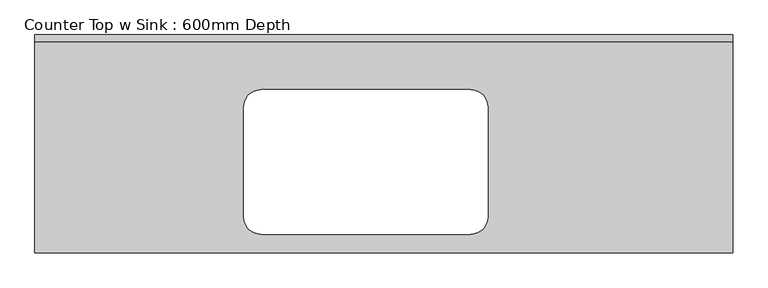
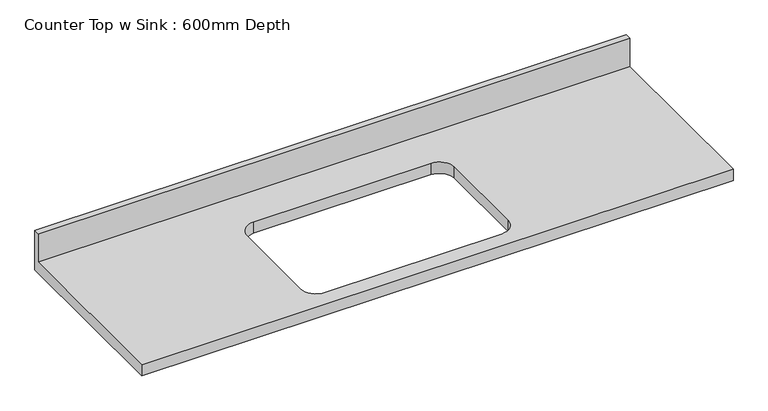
"""IFC4 building model written with IfcOpenShell, lengths in millimetres: furniture geometry, Counter Top w Sink : 600mm Depth."""

from ifc_helpers import new_model, si_unit, frame, origin, place, context, project, spatial, polyline, circle_curve, source, transform, mapped, element, save
from ifc_brep_helpers import plane_surface, revolved_surface, advanced_brep


def counter_top_w_sink_600mm_depth_2976168a(model_context):
    return source(origin(), model_context, "Body", "AdvancedBrep", [
        advanced_brep(
        [(-1200.4622951, -625.0, 900.0), (799.5377049, -625.0, 900.0), (799.5377049, -19.05, 900.0), (-1200.4622951, -19.05, 900.0), (-551.4177126, -157.127536, 900.0), (47.3822874, -157.127536, 900.0), (98.1822874, -207.927536, 900.0), (98.1822874, -521.727536, 900.0), (47.3822874, -572.527536, 900.0), (-551.4177126, -572.527536, 900.0), (-602.2177126, -521.727536, 900.0), (-602.2177126, -207.927536, 900.0), (799.5377049, 0.0, 860.0), (799.5377049, -625.0, 860.0), (-1200.4622951, -625.0, 860.0), (-1200.4622951, 0.0, 860.0), (47.3822874, -157.127536, 860.0), (-551.4177126, -157.127536, 860.0), (-602.2177126, -207.927536, 860.0), (-602.2177126, -521.727536, 860.0), (-551.4177126, -572.527536, 860.0), (47.3822874, -572.527536, 860.0), (98.1822874, -521.727536, 860.0), (98.1822874, -207.927536, 860.0), (-1200.4622951, 0.0, 1001.6), (799.5377049, 0.0, 1001.6), (-1200.4622951, -19.05, 1001.6), (799.5377049, -19.05, 1001.6)],
        [
            (0, 1),
            (1, 2),
            (2, 3),
            (3, 0),
            (4, 5),
            (5, 6, circle_curve(frame((47.3822874, -207.927536, 900.0), z_axis=(0.0, 0.0, -1.0), x_axis=(1.0, 0.0, 0.0)), 50.8)),
            (6, 7),
            (7, 8, circle_curve(frame((47.3822874, -521.727536, 900.0), z_axis=(0.0, 0.0, -1.0), x_axis=(1.0, 0.0, 0.0)), 50.8)),
            (8, 9),
            (9, 10, circle_curve(frame((-551.4177126, -521.727536, 900.0), z_axis=(0.0, 0.0, -1.0), x_axis=(1.0, 0.0, 0.0)), 50.8)),
            (10, 11),
            (11, 4, circle_curve(frame((-551.4177126, -207.927536, 900.0), z_axis=(0.0, 0.0, -1.0), x_axis=(1.0, 0.0, 0.0)), 50.8)),
            (12, 13),
            (13, 14),
            (14, 15),
            (15, 12),
            (16, 17),
            (17, 18, circle_curve(frame((-551.4177126, -207.927536, 860.0), z_axis=(0.0, 0.0, 1.0), x_axis=(1.0, 0.0, 0.0)), 50.8)),
            (18, 19),
            (19, 20, circle_curve(frame((-551.4177126, -521.727536, 860.0), z_axis=(0.0, 0.0, 1.0), x_axis=(1.0, 0.0, 0.0)), 50.8)),
            (20, 21),
            (21, 22, circle_curve(frame((47.3822874, -521.727536, 860.0), z_axis=(0.0, 0.0, 1.0), x_axis=(1.0, 0.0, 0.0)), 50.8)),
            (22, 23),
            (23, 16, circle_curve(frame((47.3822874, -207.927536, 860.0), z_axis=(0.0, 0.0, 1.0), x_axis=(1.0, 0.0, 0.0)), 50.8)),
            (15, 24),
            (24, 25),
            (25, 12),
            (14, 0),
            (3, 26),
            (26, 24),
            (13, 1),
            (25, 27),
            (27, 2),
            (26, 27),
            (4, 17),
            (16, 5),
            (11, 18),
            (10, 19),
            (9, 20),
            (8, 21),
            (7, 22),
            (6, 23),
        ],
        [
            plane_surface(frame((-1200.4622951, 0.0, 900.0), z_axis=(0.0, 0.0, 1.0), x_axis=(-1.0, 0.0, 0.0))),
            plane_surface(frame((-1200.4622951, 0.0, 860.0), z_axis=(0.0, 0.0, -1.0), x_axis=(1.0, 0.0, 0.0))),
            plane_surface(frame((799.5377049, 0.0, 900.0), z_axis=(0.0, 1.0, 0.0), x_axis=(0.0, 0.0, -1.0))),
            plane_surface(frame((-1200.4622951, 0.0, 900.0), z_axis=(-1.0, 0.0, 0.0), x_axis=(0.0, 0.0, -1.0))),
            plane_surface(frame((-1200.4622951, -625.0, 900.0), z_axis=(0.0, -1.0, 0.0), x_axis=(0.0, 0.0, -1.0))),
            plane_surface(frame((799.5377049, -625.0, 900.0), z_axis=(1.0, 0.0, 0.0), x_axis=(0.0, 0.0, -1.0))),
            plane_surface(frame((-1200.4622951, 0.0, 1001.6), z_axis=(0.0, 0.0, 1.0), x_axis=(0.0, -1.0, 0.0))),
            plane_surface(frame((-1200.4622951, -19.05, 1001.6), z_axis=(0.0, -1.0, 0.0), x_axis=(0.0, 0.0, -1.0))),
            plane_surface(frame((47.3822874, -157.127536, 900.0), z_axis=(0.0, -1.0, 0.0), x_axis=(0.0, 0.0, -1.0))),
            revolved_surface(polyline([(-500.61771259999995, -207.927536, 900.0), (-500.61771259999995, -207.927536, 860.0)]), (-551.4177126, -207.927536, 860.0), (0.0, 0.0, 1.0)),
            plane_surface(frame((-602.2177126, -207.927536, 900.0), z_axis=(1.0, 0.0, 0.0), x_axis=(0.0, 0.0, -1.0))),
            revolved_surface(polyline([(-500.61771259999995, -521.727536, 900.0), (-500.61771259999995, -521.727536, 860.0)]), (-551.4177126, -521.727536, 860.0), (0.0, 0.0, 1.0)),
            plane_surface(frame((-551.4177126, -572.527536, 900.0), z_axis=(0.0, 1.0, 0.0), x_axis=(0.0, 0.0, -1.0))),
            revolved_surface(polyline([(98.1822874, -521.727536, 900.0), (98.1822874, -521.727536, 860.0)]), (47.3822874, -521.727536, 860.0), (0.0, 0.0, 1.0)),
            plane_surface(frame((98.1822874, -521.727536, 900.0), z_axis=(-1.0, 0.0, 0.0), x_axis=(0.0, 0.0, -1.0))),
            revolved_surface(polyline([(98.1822874, -207.927536, 900.0), (98.1822874, -207.927536, 860.0)]), (47.3822874, -207.927536, 860.0), (0.0, 0.0, 1.0)),
        ],
        [
            (0, [[1, 2, 3, 4], [5, 6, 7, 8, 9, 10, 11, 12]]),
            (1, [[13, 14, 15, 16], [17, 18, 19, 20, 21, 22, 23, 24]]),
            (2, [[-16, 25, 26, 27]]),
            (3, [[-15, 28, -4, 29, 30, -25]]),
            (4, [[-1, -28, -14, 31]]),
            (5, [[-13, -27, 32, 33, -2, -31]]),
            (6, [[-30, 34, -32, -26]]),
            (7, [[-34, -29, -3, -33]]),
            (8, [[35, -17, 36, -5]]),
            (9, [[-35, -12, 37, -18]]),
            (10, [[-37, -11, 38, -19]]),
            (11, [[-38, -10, 39, -20]]),
            (12, [[-39, -9, 40, -21]]),
            (13, [[-40, -8, 41, -22]]),
            (14, [[-41, -7, 42, -23]]),
            (15, [[-36, -24, -42, -6]]),
        ],
    ),
    ])


if __name__ == "__main__":
    model = new_model("IFC4")
    model_context = context("Model", 3, world=origin())
    ifc_project = project(units=[si_unit("LENGTHUNIT", "METRE", prefix="MILLI")], contexts=[model_context])
    site = spatial("IfcSite", under=ifc_project)
    building = spatial("IfcBuilding", under=site)
    placement = place(None, origin())
    counter_top_w_sink_600mm_depth_shape = counter_top_w_sink_600mm_depth_2976168a(model_context)
    element("IfcFurniture", 1, ObjectType="Counter Top w Sink : 600mm Depth", at=placement, inside=building, context=model_context, shape_type="MappedRepresentation", body=[
        mapped(counter_top_w_sink_600mm_depth_shape, transform((0.0, 0.0, 0.0), x_axis=(1.0, 0.0, 0.0), y_axis=(0.0, 1.0, 0.0), z_axis=(0.0, 0.0, 1.0))),
    ])
    save(model, "model.ifc")
